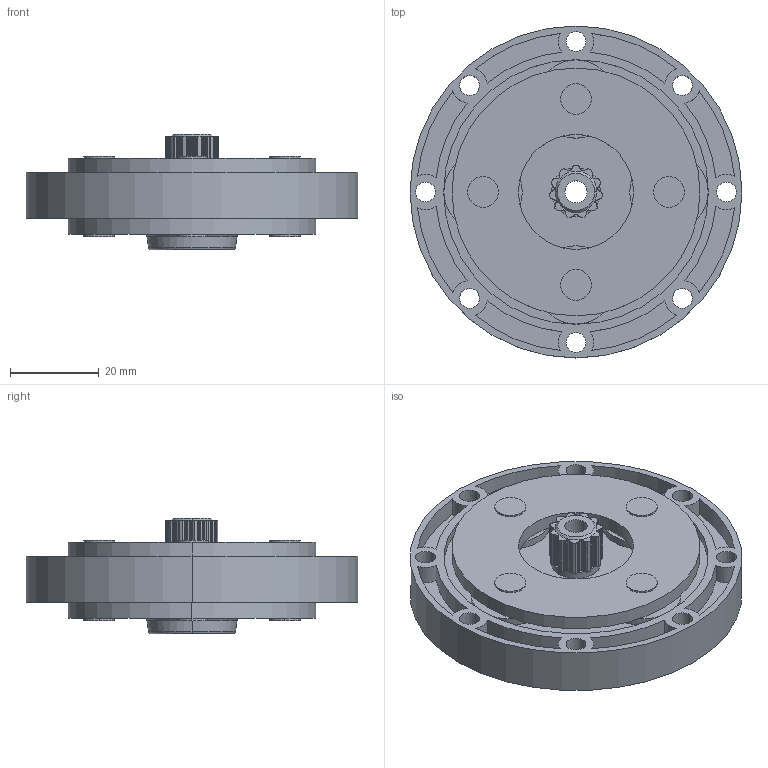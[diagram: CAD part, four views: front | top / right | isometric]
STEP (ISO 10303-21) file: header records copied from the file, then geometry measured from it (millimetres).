
FILE_DESCRIPTION (( 'STEP AP203' ), '1' );
FILE_NAME ('LGU75-3PLD.step', '2021-07-23T02:24:55', ( '' ), ( '' ), 'SwSTEP 2.0', 'SolidWorks 2021', '' );
FILE_SCHEMA (( 'CONFIG_CONTROL_DESIGN' ));
Length unit declared in the file: millimetre
Products named in the file (1): LGU75-3PLD
Bounding box: 75 x 75 x 26.15 mm (x, y, z)
Volume: 47805.6 mm3; surface area: 27954.5 mm2
Topology: 1 solids, 1 shells, 530 faces, 1435 edges, 948 vertices
Faces by surface type: cylinder 457, plane 65, cone 4, torus 4
Entity records: 17390 total; most frequent: DIRECTION 3471, CARTESIAN_POINT 2914, ORIENTED_EDGE 2870, AXIS2_PLACEMENT_3D 1505, EDGE_CURVE 1435, CIRCLE 974, VERTEX_POINT 948, EDGE_LOOP 605
